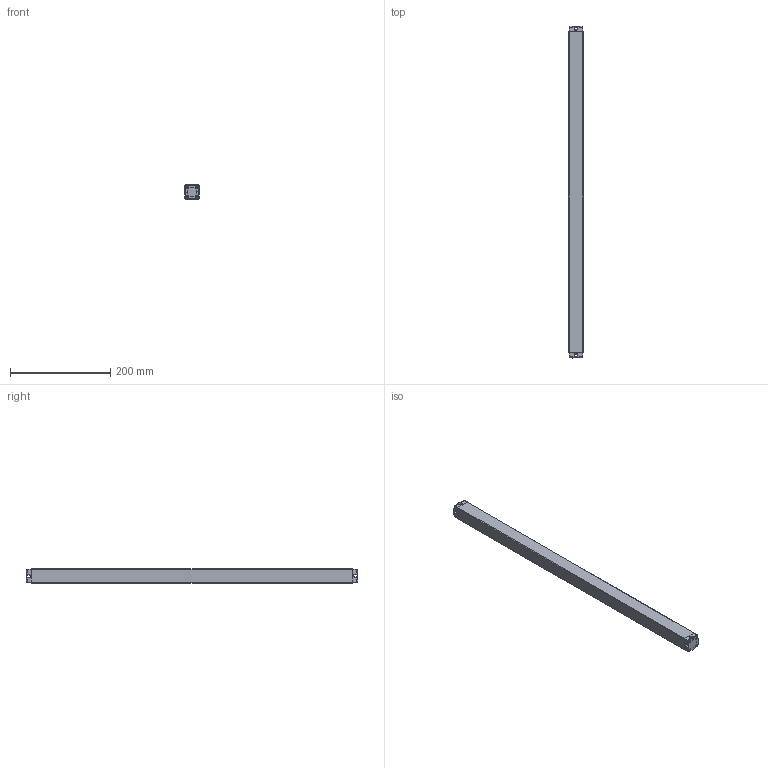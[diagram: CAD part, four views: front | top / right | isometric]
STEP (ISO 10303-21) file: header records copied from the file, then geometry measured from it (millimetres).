
FILE_DESCRIPTION((''),'2;1');
FILE_NAME('ELD00_ASM','2021-07-20T09:27:13',('18720616900'),(''),'CREO PARAMETRIC BY PTC INC, 2019010','CREO PARAMETRIC BY PTC INC, 2019010','');
FILE_SCHEMA(('CONFIG_CONTROL_DESIGN'));
Length unit declared in the file: millimetre
Products named in the file (6): ELD--00; ELD--000; ST-3-12; ELD00_ASM
Assembly tree (12 placements, depth 2):
  ELD00_ASM
    ELD--00
    ELD--000
    ELD--000
    ELD--000
    ST-3-12  x8
Bounding box: 28 x 662 x 28 mm (x, y, z)
Volume: 514790.9 mm3; surface area: 110893.9 mm2
Topology: 12 solids, 12 shells, 792 faces, 2082 edges, 1296 vertices
Faces by surface type: plane 236, cone 172, bspline 168, cylinder 156, torus 44, sphere 16
Entity records: 14414 total; most frequent: CARTESIAN_POINT 6863, ORIENTED_EDGE 1584, DIRECTION 1469, EDGE_CURVE 792, AXIS2_PLACEMENT_3D 520, VERTEX_POINT 491, VECTOR 429, LINE 429
